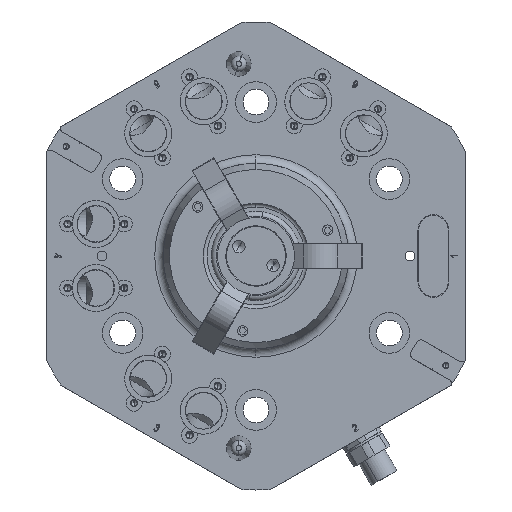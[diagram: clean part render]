
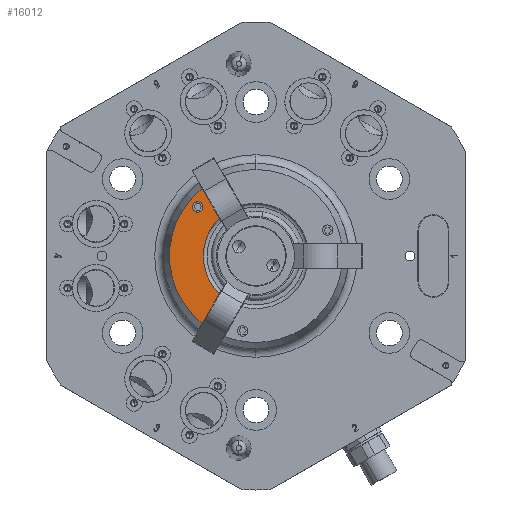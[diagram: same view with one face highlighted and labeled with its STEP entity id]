
A CAD part, front view. The second image highlights one B-rep face of the part: STEP entity #16012.
In plain terms, the highlighted planar face has unit normal (0, -1, 0).
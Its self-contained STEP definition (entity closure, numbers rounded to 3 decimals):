
#2435 = CARTESIAN_POINT ( 'NONE',  ( -21.901, -44.5, 27.434 ) ) ;
#4382 = DIRECTION ( 'NONE',  ( -0.5, 0., -0.866 ) ) ;
#4408 = LINE ( 'NONE', #9318, #37681 ) ;
#4991 = AXIS2_PLACEMENT_3D ( 'NONE', #74134, #45128, #63537 ) ;
#8499 = CARTESIAN_POINT ( 'NONE',  ( -23.624, -44.5, 22.018 ) ) ;
#9318 = CARTESIAN_POINT ( 'NONE',  ( -14.902, -44.5, 15.31 ) ) ;
#9604 = ORIENTED_EDGE ( 'NONE', *, *, #14462, .F. ) ;
#10011 = CARTESIAN_POINT ( 'NONE',  ( -21.901, -44.5, -27.434 ) ) ;
#12113 = CIRCLE ( 'NONE', #31372, 35.104 ) ;
#14462 = EDGE_CURVE ( 'NONE', #46805, #14735, #31544, .T. ) ;
#14735 = VERTEX_POINT ( 'NONE', #52817 ) ;
#15551 = CARTESIAN_POINT ( 'NONE',  ( -23.624, -44.5, 19.918 ) ) ;
#16012 = ADVANCED_FACE ( 'NONE', ( #70659, #41637 ), #69564, .T. ) ;
#16551 = DIRECTION ( 'NONE',  ( 0., -1., 0. ) ) ;
#17886 = DIRECTION ( 'NONE',  ( 0., -1., 0. ) ) ;
#21239 = VERTEX_POINT ( 'NONE', #10011 ) ;
#26673 = CARTESIAN_POINT ( 'NONE',  ( -14.902, -44.5, -15.31 ) ) ;
#28602 = EDGE_CURVE ( 'NONE', #37474, #21239, #55275, .T. ) ;
#29386 = CARTESIAN_POINT ( 'NONE',  ( 0., -44.5, 0. ) ) ;
#29652 = VERTEX_POINT ( 'NONE', #2435 ) ;
#30022 = EDGE_LOOP ( 'NONE', ( #60770, #9604 ) ) ;
#30444 = ORIENTED_EDGE ( 'NONE', *, *, #28602, .F. ) ;
#31372 = AXIS2_PLACEMENT_3D ( 'NONE', #61066, #16551, #43717 ) ;
#31544 = CIRCLE ( 'NONE', #4991, 2.1 ) ;
#31568 = AXIS2_PLACEMENT_3D ( 'NONE', #15551, #50596, #61544 ) ;
#32312 = DIRECTION ( 'NONE',  ( 0.5, 0., -0.866 ) ) ;
#34289 = DIRECTION ( 'NONE',  ( 0., -1., 0. ) ) ;
#37474 = VERTEX_POINT ( 'NONE', #26673 ) ;
#37681 = VECTOR ( 'NONE', #32312, 1000. ) ;
#38330 = VERTEX_POINT ( 'NONE', #54011 ) ;
#38355 = ORIENTED_EDGE ( 'NONE', *, *, #50066, .T. ) ;
#38648 = ORIENTED_EDGE ( 'NONE', *, *, #64795, .F. ) ;
#39000 = EDGE_CURVE ( 'NONE', #38330, #37474, #54852, .T. ) ;
#40518 = DIRECTION ( 'NONE',  ( 0., 0., -1. ) ) ;
#41637 = FACE_OUTER_BOUND ( 'NONE', #63987, .T. ) ;
#43717 = DIRECTION ( 'NONE',  ( 0., 0., -1. ) ) ;
#45128 = DIRECTION ( 'NONE',  ( 0., -1., 0. ) ) ;
#46805 = VERTEX_POINT ( 'NONE', #8499 ) ;
#50066 = EDGE_CURVE ( 'NONE', #29652, #21239, #12113, .T. ) ;
#50596 = DIRECTION ( 'NONE',  ( 0., -1., 0. ) ) ;
#52817 = CARTESIAN_POINT ( 'NONE',  ( -23.624, -44.5, 17.818 ) ) ;
#52874 = ORIENTED_EDGE ( 'NONE', *, *, #39000, .F. ) ;
#53198 = CIRCLE ( 'NONE', #31568, 2.1 ) ;
#54011 = CARTESIAN_POINT ( 'NONE',  ( -14.902, -44.5, 15.31 ) ) ;
#54852 = CIRCLE ( 'NONE', #58485, 21.365 ) ;
#55253 = VECTOR ( 'NONE', #4382, 1000. ) ;
#55275 = LINE ( 'NONE', #72616, #55253 ) ;
#58485 = AXIS2_PLACEMENT_3D ( 'NONE', #29386, #34289, #62930 ) ;
#60770 = ORIENTED_EDGE ( 'NONE', *, *, #61328, .F. ) ;
#61066 = CARTESIAN_POINT ( 'NONE',  ( 0., -44.5, 0. ) ) ;
#61328 = EDGE_CURVE ( 'NONE', #14735, #46805, #53198, .T. ) ;
#61544 = DIRECTION ( 'NONE',  ( 0., 0., -1. ) ) ;
#62930 = DIRECTION ( 'NONE',  ( 0., 0., -1. ) ) ;
#63537 = DIRECTION ( 'NONE',  ( 0., 0., -1. ) ) ;
#63987 = EDGE_LOOP ( 'NONE', ( #38648, #38355, #30444, #52874 ) ) ;
#64795 = EDGE_CURVE ( 'NONE', #29652, #38330, #4408, .T. ) ;
#69564 = PLANE ( 'NONE',  #69773 ) ;
#69773 = AXIS2_PLACEMENT_3D ( 'NONE', #69922, #17886, #40518 ) ;
#69922 = CARTESIAN_POINT ( 'NONE',  ( 0., -44.5, 0. ) ) ;
#70659 = FACE_BOUND ( 'NONE', #30022, .T. ) ;
#72616 = CARTESIAN_POINT ( 'NONE',  ( -14.902, -44.5, -15.31 ) ) ;
#74134 = CARTESIAN_POINT ( 'NONE',  ( -23.624, -44.5, 19.918 ) ) ;
